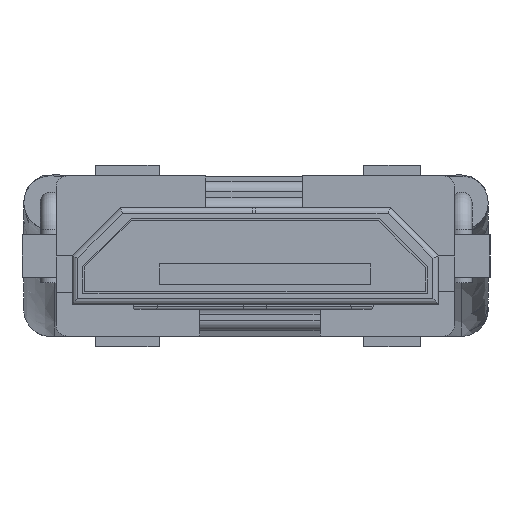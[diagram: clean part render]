
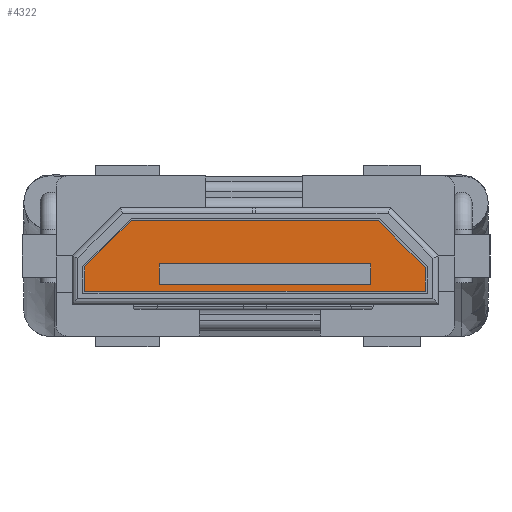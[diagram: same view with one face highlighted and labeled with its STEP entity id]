
A CAD part, front view. The second image highlights one B-rep face of the part: STEP entity #4322.
In plain terms, the highlighted planar face has unit normal (0, -1, 0) as drawn and (0, 1, 0) by its records, which use the part's own axes.
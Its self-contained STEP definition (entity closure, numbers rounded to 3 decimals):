
#4184 = VERTEX_POINT('',#4185);
#4185 = CARTESIAN_POINT('',(6.605,6.5,-0.241));
#4191 = EDGE_CURVE('',#4192,#4184,#4194,.T.);
#4192 = VERTEX_POINT('',#4193);
#4193 = CARTESIAN_POINT('',(0.231,6.5,-0.241));
#4194 = LINE('',#4195,#4196);
#4195 = CARTESIAN_POINT('',(6.605,6.5,-0.241));
#4196 = VECTOR('',#4197,1.);
#4197 = DIRECTION('',(1.,0.,0.));
#4215 = VERTEX_POINT('',#4216);
#4216 = CARTESIAN_POINT('',(6.605,6.5,-0.682));
#4222 = EDGE_CURVE('',#4184,#4215,#4223,.T.);
#4223 = LINE('',#4224,#4225);
#4224 = CARTESIAN_POINT('',(6.605,6.5,-0.682));
#4225 = VECTOR('',#4226,1.);
#4226 = DIRECTION('',(0.,0.,-1.));
#4239 = VERTEX_POINT('',#4240);
#4240 = CARTESIAN_POINT('',(5.729,6.5,-1.561));
#4246 = EDGE_CURVE('',#4215,#4239,#4247,.T.);
#4247 = LINE('',#4248,#4249);
#4248 = CARTESIAN_POINT('',(5.729,6.5,-1.561));
#4249 = VECTOR('',#4250,1.);
#4250 = DIRECTION('',(-0.706,0.,-0.708));
#4263 = VERTEX_POINT('',#4264);
#4264 = CARTESIAN_POINT('',(1.101,6.5,-1.561));
#4270 = EDGE_CURVE('',#4239,#4263,#4271,.T.);
#4271 = LINE('',#4272,#4273);
#4272 = CARTESIAN_POINT('',(1.101,6.5,-1.561));
#4273 = VECTOR('',#4274,1.);
#4274 = DIRECTION('',(-1.,0.,0.));
#4287 = VERTEX_POINT('',#4288);
#4288 = CARTESIAN_POINT('',(0.231,6.5,-0.695));
#4294 = EDGE_CURVE('',#4263,#4287,#4295,.T.);
#4295 = LINE('',#4296,#4297);
#4296 = CARTESIAN_POINT('',(0.231,6.5,-0.695));
#4297 = VECTOR('',#4298,1.);
#4298 = DIRECTION('',(-0.708,0.,0.706));
#4311 = EDGE_CURVE('',#4287,#4192,#4312,.T.);
#4312 = LINE('',#4313,#4314);
#4313 = CARTESIAN_POINT('',(0.231,6.5,-0.241));
#4314 = VECTOR('',#4315,1.);
#4315 = DIRECTION('',(0.,0.,1.));
#4322 = ADVANCED_FACE('',(#4323,#4357),#4365,.F.);
#4323 = FACE_BOUND('',#4324,.T.);
#4324 = EDGE_LOOP('',(#4325,#4335,#4343,#4351));
#4325 = ORIENTED_EDGE('',*,*,#4326,.F.);
#4326 = EDGE_CURVE('',#4327,#4329,#4331,.T.);
#4327 = VERTEX_POINT('',#4328);
#4328 = CARTESIAN_POINT('',(1.628,6.5,-0.361));
#4329 = VERTEX_POINT('',#4330);
#4330 = CARTESIAN_POINT('',(5.581,6.5,-0.361));
#4331 = LINE('',#4332,#4333);
#4332 = CARTESIAN_POINT('',(1.628,6.5,-0.361));
#4333 = VECTOR('',#4334,1.);
#4334 = DIRECTION('',(1.,0.,0.));
#4335 = ORIENTED_EDGE('',*,*,#4336,.F.);
#4336 = EDGE_CURVE('',#4337,#4327,#4339,.T.);
#4337 = VERTEX_POINT('',#4338);
#4338 = CARTESIAN_POINT('',(1.628,6.5,-0.753));
#4339 = LINE('',#4340,#4341);
#4340 = CARTESIAN_POINT('',(1.628,6.5,-0.753));
#4341 = VECTOR('',#4342,1.);
#4342 = DIRECTION('',(0.,0.,1.));
#4343 = ORIENTED_EDGE('',*,*,#4344,.F.);
#4344 = EDGE_CURVE('',#4345,#4337,#4347,.T.);
#4345 = VERTEX_POINT('',#4346);
#4346 = CARTESIAN_POINT('',(5.581,6.5,-0.753));
#4347 = LINE('',#4348,#4349);
#4348 = CARTESIAN_POINT('',(1.628,6.5,-0.753));
#4349 = VECTOR('',#4350,1.);
#4350 = DIRECTION('',(-1.,0.,0.));
#4351 = ORIENTED_EDGE('',*,*,#4352,.F.);
#4352 = EDGE_CURVE('',#4329,#4345,#4353,.T.);
#4353 = LINE('',#4354,#4355);
#4354 = CARTESIAN_POINT('',(5.581,6.5,-0.753));
#4355 = VECTOR('',#4356,1.);
#4356 = DIRECTION('',(0.,0.,-1.));
#4357 = FACE_BOUND('',#4358,.T.);
#4358 = EDGE_LOOP('',(#4359,#4360,#4361,#4362,#4363,#4364));
#4359 = ORIENTED_EDGE('',*,*,#4191,.T.);
#4360 = ORIENTED_EDGE('',*,*,#4222,.T.);
#4361 = ORIENTED_EDGE('',*,*,#4246,.T.);
#4362 = ORIENTED_EDGE('',*,*,#4270,.T.);
#4363 = ORIENTED_EDGE('',*,*,#4294,.T.);
#4364 = ORIENTED_EDGE('',*,*,#4311,.T.);
#4365 = PLANE('',#4366);
#4366 = AXIS2_PLACEMENT_3D('',#4367,#4368,#4369);
#4367 = CARTESIAN_POINT('',(0.,6.5,0.));
#4368 = DIRECTION('',(0.,-1.,0.));
#4369 = DIRECTION('',(0.,0.,-1.));
